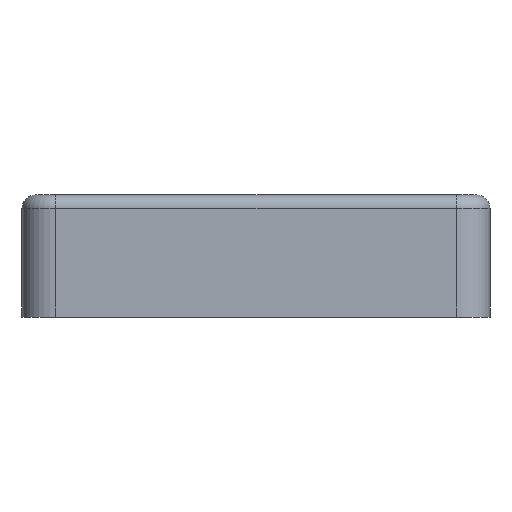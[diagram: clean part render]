
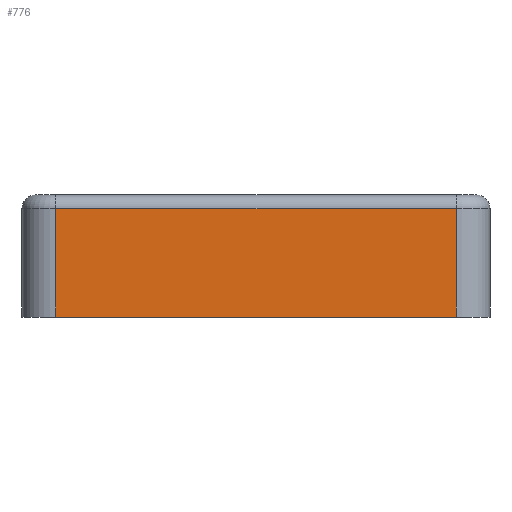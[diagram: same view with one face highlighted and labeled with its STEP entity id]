
A CAD part, left-side view. The second image highlights one B-rep face of the part: STEP entity #776.
In plain terms, the highlighted planar face has unit normal (-1, 0, 0).
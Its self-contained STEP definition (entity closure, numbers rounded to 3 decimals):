
#41 = EDGE_LOOP ( 'NONE', ( #1707, #1466, #1210, #1578 ) ) ;
#66 = LINE ( 'NONE', #1284, #1455 ) ;
#85 = CARTESIAN_POINT ( 'NONE',  ( -2., 62., 0. ) ) ;
#142 = VERTEX_POINT ( 'NONE', #1141 ) ;
#174 = VERTEX_POINT ( 'NONE', #1836 ) ;
#223 = CARTESIAN_POINT ( 'NONE',  ( -2., 67., 18. ) ) ;
#330 = EDGE_CURVE ( 'NONE', #1948, #174, #778, .T. ) ;
#403 = FACE_OUTER_BOUND ( 'NONE', #41, .T. ) ;
#461 = CARTESIAN_POINT ( 'NONE',  ( -2., 62., 18. ) ) ;
#518 = DIRECTION ( 'NONE',  ( 0., 1., 0. ) ) ;
#703 = VECTOR ( 'NONE', #1087, 1000. ) ;
#761 = CARTESIAN_POINT ( 'NONE',  ( -2., 3., 18. ) ) ;
#776 = ADVANCED_FACE ( 'NONE', ( #403 ), #1620, .F. ) ;
#778 = LINE ( 'NONE', #1415, #703 ) ;
#785 = EDGE_CURVE ( 'NONE', #1632, #142, #66, .T. ) ;
#817 = DIRECTION ( 'NONE',  ( 1., 0., 0. ) ) ;
#840 = DIRECTION ( 'NONE',  ( 0., 1., 0. ) ) ;
#903 = DIRECTION ( 'NONE',  ( 0., 0., -1. ) ) ;
#911 = LINE ( 'NONE', #761, #1845 ) ;
#996 = VECTOR ( 'NONE', #903, 1000. ) ;
#1044 = DIRECTION ( 'NONE',  ( 0., 0., 1. ) ) ;
#1087 = DIRECTION ( 'NONE',  ( 0., -1., 0. ) ) ;
#1141 = CARTESIAN_POINT ( 'NONE',  ( -2., 62., 16. ) ) ;
#1202 = CARTESIAN_POINT ( 'NONE',  ( -2., 3., 16. ) ) ;
#1210 = ORIENTED_EDGE ( 'NONE', *, *, #1711, .T. ) ;
#1284 = CARTESIAN_POINT ( 'NONE',  ( -2., 62., 16. ) ) ;
#1376 = LINE ( 'NONE', #461, #996 ) ;
#1415 = CARTESIAN_POINT ( 'NONE',  ( -2., 67., 0. ) ) ;
#1455 = VECTOR ( 'NONE', #518, 1000. ) ;
#1466 = ORIENTED_EDGE ( 'NONE', *, *, #785, .T. ) ;
#1527 = AXIS2_PLACEMENT_3D ( 'NONE', #223, #817, #840 ) ;
#1578 = ORIENTED_EDGE ( 'NONE', *, *, #330, .T. ) ;
#1620 = PLANE ( 'NONE',  #1527 ) ;
#1632 = VERTEX_POINT ( 'NONE', #1202 ) ;
#1650 = EDGE_CURVE ( 'NONE', #174, #1632, #911, .T. ) ;
#1707 = ORIENTED_EDGE ( 'NONE', *, *, #1650, .T. ) ;
#1711 = EDGE_CURVE ( 'NONE', #142, #1948, #1376, .T. ) ;
#1836 = CARTESIAN_POINT ( 'NONE',  ( -2., 3., 0. ) ) ;
#1845 = VECTOR ( 'NONE', #1044, 1000. ) ;
#1948 = VERTEX_POINT ( 'NONE', #85 ) ;
